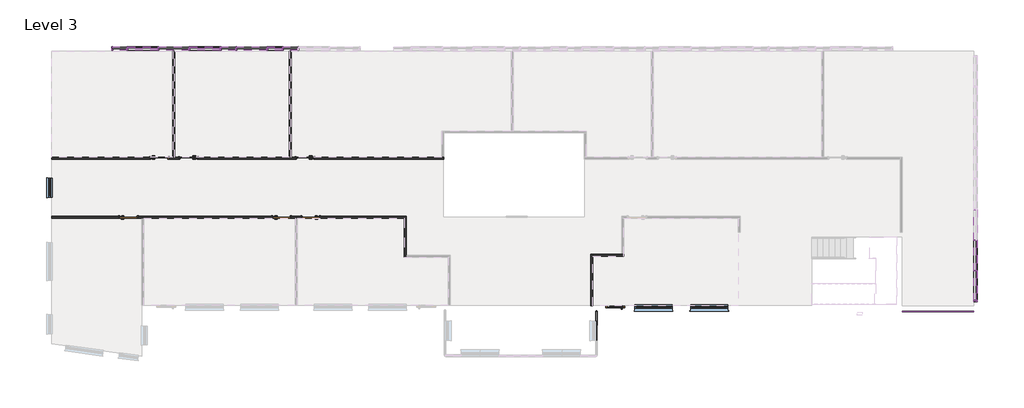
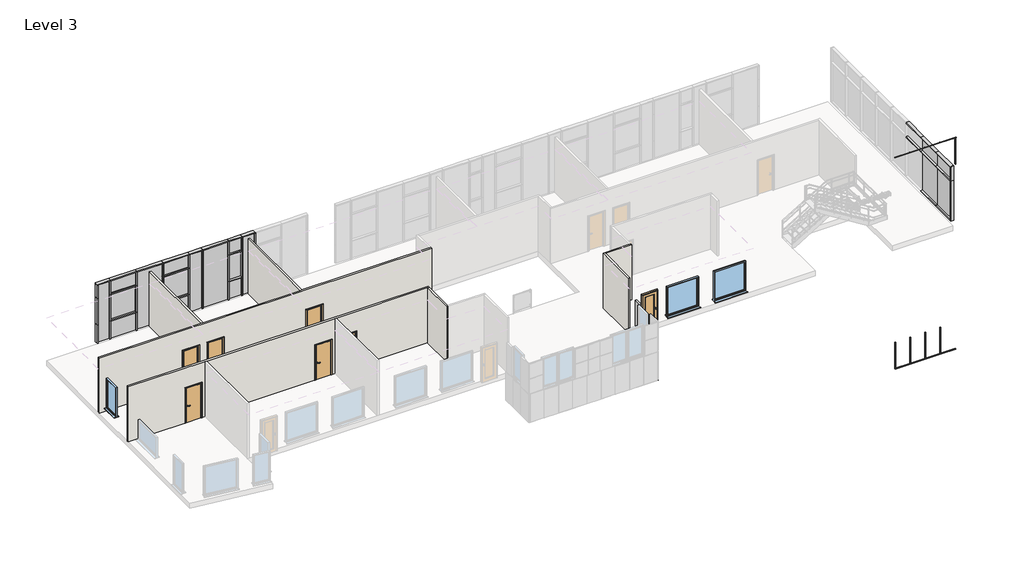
# One storey, part 2 of 7: 70 members, 20 plates, 7 doors, 7 walls, 3 windows.
"""IFC4 building model written with IfcOpenShell, lengths in millimetres."""

from ifc_helpers import new_model, si_unit, frame, origin, place, context, project, spatial, polyline, outline, extrude, faceted_brep, transform, mapped, element, save
from components import doors_extsgl_1_910x2110mm_7b8cb358, doors_intsgl_1_910x2110mm_004a08d5, doors_intsgl_1_910x2110mm_ba118736, rectangular_mullion_25x25mm_028a5a57, rectangular_mullion_25x25mm_786a5d36, rectangular_mullion_25x25mm_25fd254f, rectangular_mullion_25x25mm_12161fae, rectangular_mullion_25x25mm_ef6955a9, rectangular_mullion_25x25mm_25705b98, rectangular_mullion_25x25mm_b0a37639, rectangular_mullion_25x25mm_a2025cdc, rectangular_mullion_25x25mm_76bd89fd, rectangular_mullion_25x25mm_58970ee0, rectangular_mullion_50x180mm_27940352, rectangular_mullion_50x180mm_f781141c, rectangular_mullion_50x180mm_fd91253e, rectangular_mullion_50x180mm_cfc9efda, rectangular_mullion_50x180mm_c30fec06, rectangular_mullion_50x180mm_55b63a96, rectangular_mullion_50x180mm_7153291d, rectangular_mullion_50x180mm_95299f7d, rectangular_mullion_50x180mm_b21090a6, rectangular_mullion_50x180mm_bfae1b57, rectangular_mullion_50x180mm_1c28dd9e, rectangular_mullion_50x180mm_c0bd3b18, rectangular_mullion_50x180mm_ec7f3dde, rectangular_mullion_50x180mm_ee9895d7, rectangular_mullion_50x180mm_69a7fca8, rectangular_mullion_50x180mm_43fab6d0, rectangular_mullion_50x180mm_84521c55, rectangular_mullion_50x180mm_3562f263, curtain_panels_solid_solid_panel_green_bf3e8d7c, curtain_panels_solid_solid_panel_green_e58bbc27, system_panel_black_panel_33968e5e, system_panel_black_panel_b553a8d2, system_panel_dark_grey_panel_4b19a003, system_panel_glazed_dd63f223, system_panel_glazed_4915e1a0, system_panel_glazed_7f1c0332, system_panel_glazed_68cc8840, system_panel_glazed_324ac287, system_panel_glazed_350533b4, system_panel_white_panel_6a64f577, system_panel_white_panel_a9ca731a, system_panel_white_panel_dc489aa2, system_panel_white_panel_659cbcf8, windows_sgl_plain_1810x1810mm_c88d1166, windows_sgl_plain_910x1810mm_2ed797d2

model = new_model("IFC4")

# Units and contexts
model_context = context("Model", 3, world=origin())
ifc_project = project(units=[si_unit("LENGTHUNIT", "METRE", prefix="MILLI")], contexts=[model_context])

# Site, building, storey
site = spatial("IfcSite", under=ifc_project)
building = spatial("IfcBuilding", under=site)
storey = spatial("IfcBuildingStorey", under=building, Name="Level 3", Elevation=11000.0)

# Doors
placement = place(None, origin())
doors_extsgl_1_910x2110mm_shape = doors_extsgl_1_910x2110mm_7b8cb358(model_context)
element("IfcDoor", 1, ObjectType="Doors_ExtSgl_1 : 910x2110mm", at=placement, inside=storey, context=model_context, shape_type="MappedRepresentation", body=[
    mapped(doors_extsgl_1_910x2110mm_shape, transform((25785.7942367, -3410.0053409, 11000.0), x_axis=(-1.0, 0.0, 0.0), y_axis=(0.0, -1.0, 0.0), z_axis=(0.0, 0.0, 1.0))),
])
doors_intsgl_1_910x2110mm_shape = doors_intsgl_1_910x2110mm_004a08d5(model_context)
element("IfcDoor", 2, ObjectType="Doors_IntSgl_1 : 910x2110mm", at=placement, inside=storey, context=model_context, shape_type="MappedRepresentation", body=[
    mapped(doors_intsgl_1_910x2110mm_shape, transform((3778.2942367, 3837.3025486, 11000.0), x_axis=(1.0, 0.0, 0.0), y_axis=(0.0, 1.0, 0.0), z_axis=(0.0, 0.0, 1.0))),
])
element("IfcDoor", 3, ObjectType="Doors_IntSgl_1 : 910x2110mm", at=placement, inside=storey, context=model_context, shape_type="MappedRepresentation", body=[
    mapped(doors_intsgl_1_910x2110mm_shape, transform((11085.7942367, 987.4946591, 11000.0), x_axis=(-1.0, 0.0, 0.0), y_axis=(0.0, -1.0, 0.0), z_axis=(0.0, 0.0, 1.0))),
])
doors_intsgl_1_910x2110mm_2_shape = doors_intsgl_1_910x2110mm_ba118736(model_context)
element("IfcDoor", 4, ObjectType="Doors_IntSgl_1 : 910x2110mm", at=placement, inside=storey, context=model_context, shape_type="MappedRepresentation", body=[
    mapped(doors_intsgl_1_910x2110mm_2_shape, transform((5183.2942367, 3837.3025486, 11000.0), x_axis=(-1.0, 0.0, 0.0), y_axis=(0.0, -1.0, 0.0), z_axis=(0.0, 0.0, 1.0))),
])
element("IfcDoor", 5, ObjectType="Doors_IntSgl_1 : 910x2110mm", at=placement, inside=storey, context=model_context, shape_type="MappedRepresentation", body=[
    mapped(doors_intsgl_1_910x2110mm_2_shape, transform((10808.2942367, 3837.3025486, 11000.0), x_axis=(-1.0, 0.0, 0.0), y_axis=(0.0, -1.0, 0.0), z_axis=(0.0, 0.0, 1.0))),
])
element("IfcDoor", 6, ObjectType="Doors_IntSgl_1 : 910x2110mm", at=placement, inside=storey, context=model_context, shape_type="MappedRepresentation", body=[
    mapped(doors_intsgl_1_910x2110mm_2_shape, transform((9680.7942367, 987.4946591, 11000.0), x_axis=(1.0, 0.0, 0.0), y_axis=(0.0, 1.0, 0.0), z_axis=(0.0, 0.0, 1.0))),
])
element("IfcDoor", 7, ObjectType="Doors_IntSgl_1 : 910x2110mm", at=placement, inside=storey, context=model_context, shape_type="MappedRepresentation", body=[
    mapped(doors_intsgl_1_910x2110mm_2_shape, transform((2280.7942367, 987.4946591, 11000.0), x_axis=(1.0, 0.0, 0.0), y_axis=(0.0, 1.0, 0.0), z_axis=(0.0, 0.0, 1.0))),
])

# Members
rectangular_mullion_25x25mm_shape = rectangular_mullion_25x25mm_028a5a57(model_context)
element("IfcMember", 8, ObjectType="Rectangular Mullion : 25x25mm", at=placement, inside=storey, context=model_context, shape_type="MappedRepresentation", body=[
    mapped(rectangular_mullion_25x25mm_shape, transform((24873.2942367, -3535.0053409, 11275.0), x_axis=(0.0, 1.0, 0.0), y_axis=(-1.0, 0.0, 0.0), z_axis=(0.0, 0.0, 1.0))),
])
rectangular_mullion_25x25mm_2_shape = rectangular_mullion_25x25mm_786a5d36(model_context)
element("IfcMember", 9, ObjectType="Rectangular Mullion : 25x25mm", at=placement, inside=storey, context=model_context, shape_type="MappedRepresentation", body=[
    mapped(rectangular_mullion_25x25mm_2_shape, transform((24873.2942367, -4250.005341, 11300.0), x_axis=(0.0, 0.0, 1.0), y_axis=(-1.0, 0.0, 0.0), z_axis=(0.0, -1.0, 0.0))),
])
rectangular_mullion_25x25mm_3_shape = rectangular_mullion_25x25mm_25fd254f(model_context)
element("IfcMember", 10, ObjectType="Rectangular Mullion : 25x25mm", at=placement, inside=storey, context=model_context, shape_type="MappedRepresentation", body=[
    mapped(rectangular_mullion_25x25mm_3_shape, transform((24873.2942367, -4977.5053408, 11300.0), x_axis=(0.0, 0.0, 1.0), y_axis=(-1.0, 0.0, 0.0), z_axis=(0.0, -1.0, 0.0))),
])
element("IfcMember", 11, ObjectType="Rectangular Mullion : 25x25mm", at=placement, inside=storey, context=model_context, shape_type="MappedRepresentation", body=[
    mapped(rectangular_mullion_25x25mm_2_shape, transform((24873.2942367, -3535.0053409, 9560.0), x_axis=(0.0, 0.0, -1.0), y_axis=(-1.0, 0.0, 0.0), z_axis=(0.0, 1.0, 0.0))),
])
element("IfcMember", 12, ObjectType="Rectangular Mullion : 25x25mm", at=placement, inside=storey, context=model_context, shape_type="MappedRepresentation", body=[
    mapped(rectangular_mullion_25x25mm_3_shape, transform((24873.2942367, -4250.005341, 9560.0), x_axis=(0.0, 0.0, -1.0), y_axis=(-1.0, 0.0, 0.0), z_axis=(0.0, 1.0, 0.0))),
])
rectangular_mullion_25x25mm_4_shape = rectangular_mullion_25x25mm_12161fae(model_context)
element("IfcMember", 13, ObjectType="Rectangular Mullion : 25x25mm", at=placement, inside=storey, context=model_context, shape_type="MappedRepresentation", body=[
    mapped(rectangular_mullion_25x25mm_4_shape, transform((24873.2942367, -4977.5053408, 9560.0), x_axis=(0.0, 0.0, -1.0), y_axis=(-1.0, 0.0, 0.0), z_axis=(0.0, 1.0, 0.0))),
])
rectangular_mullion_25x25mm_5_shape = rectangular_mullion_25x25mm_ef6955a9(model_context)
element("IfcMember", 14, ObjectType="Rectangular Mullion : 25x25mm", at=placement, inside=storey, context=model_context, shape_type="MappedRepresentation", body=[
    mapped(rectangular_mullion_25x25mm_5_shape, transform((41374.7942367, -3560.0053409, 16500.0), x_axis=(0.0, 0.0, 1.0), y_axis=(0.0, 1.0, 0.0), z_axis=(-1.0, 0.0, 0.0))),
])
element("IfcMember", 15, ObjectType="Rectangular Mullion : 25x25mm", at=placement, inside=storey, context=model_context, shape_type="MappedRepresentation", body=[
    mapped(rectangular_mullion_25x25mm_5_shape, transform((40521.5442368, -3560.0053409, 16500.0), x_axis=(0.0, 0.0, 1.0), y_axis=(0.0, 1.0, 0.0), z_axis=(-1.0, 0.0, 0.0))),
])
rectangular_mullion_25x25mm_6_shape = rectangular_mullion_25x25mm_25705b98(model_context)
element("IfcMember", 16, ObjectType="Rectangular Mullion : 25x25mm", at=placement, inside=storey, context=model_context, shape_type="MappedRepresentation", body=[
    mapped(rectangular_mullion_25x25mm_6_shape, transform((43093.7942367, -3560.0053409, 3750.0), x_axis=(0.0, 0.0, -1.0), y_axis=(0.0, 1.0, 0.0), z_axis=(1.0, 0.0, 0.0))),
])
element("IfcMember", 17, ObjectType="Rectangular Mullion : 25x25mm", at=placement, inside=storey, context=model_context, shape_type="MappedRepresentation", body=[
    mapped(rectangular_mullion_25x25mm_5_shape, transform((42228.0442365, -3560.0053409, 3750.0), x_axis=(0.0, 0.0, -1.0), y_axis=(0.0, 1.0, 0.0), z_axis=(1.0, 0.0, 0.0))),
])
element("IfcMember", 18, ObjectType="Rectangular Mullion : 25x25mm", at=placement, inside=storey, context=model_context, shape_type="MappedRepresentation", body=[
    mapped(rectangular_mullion_25x25mm_5_shape, transform((41374.7942367, -3560.0053409, 3750.0), x_axis=(0.0, 0.0, -1.0), y_axis=(0.0, 1.0, 0.0), z_axis=(1.0, 0.0, 0.0))),
])
element("IfcMember", 19, ObjectType="Rectangular Mullion : 25x25mm", at=placement, inside=storey, context=model_context, shape_type="MappedRepresentation", body=[
    mapped(rectangular_mullion_25x25mm_6_shape, transform((40521.5442368, -3560.0053409, 3750.0), x_axis=(0.0, 0.0, -1.0), y_axis=(0.0, 1.0, 0.0), z_axis=(1.0, 0.0, 0.0))),
])
rectangular_mullion_25x25mm_7_shape = rectangular_mullion_25x25mm_b0a37639(model_context)
element("IfcMember", 20, ObjectType="Rectangular Mullion : 25x25mm", at=placement, inside=storey, context=model_context, shape_type="MappedRepresentation", body=[
    mapped(rectangular_mullion_25x25mm_7_shape, transform((42228.0442365, -3560.0053409, 3775.0), x_axis=(-1.0, 0.0, 0.0), y_axis=(0.0, 1.0, 0.0), z_axis=(0.0, 0.0, -1.0))),
])
element("IfcMember", 21, ObjectType="Rectangular Mullion : 25x25mm", at=placement, inside=storey, context=model_context, shape_type="MappedRepresentation", body=[
    mapped(rectangular_mullion_25x25mm_7_shape, transform((41374.7942367, -3560.0053409, 3775.0), x_axis=(-1.0, 0.0, 0.0), y_axis=(0.0, 1.0, 0.0), z_axis=(0.0, 0.0, -1.0))),
])
element("IfcMember", 22, ObjectType="Rectangular Mullion : 25x25mm", at=placement, inside=storey, context=model_context, shape_type="MappedRepresentation", body=[
    mapped(rectangular_mullion_25x25mm_7_shape, transform((40521.5442368, -3560.0053409, 3775.0), x_axis=(-1.0, 0.0, 0.0), y_axis=(0.0, 1.0, 0.0), z_axis=(0.0, 0.0, -1.0))),
])
rectangular_mullion_25x25mm_8_shape = rectangular_mullion_25x25mm_a2025cdc(model_context)
element("IfcMember", 23, ObjectType="Rectangular Mullion : 25x25mm", at=placement, inside=storey, context=model_context, shape_type="MappedRepresentation", body=[
    mapped(rectangular_mullion_25x25mm_8_shape, transform((39655.7942367, -3560.0053409, 3775.0), x_axis=(-1.0, 0.0, 0.0), y_axis=(0.0, 1.0, 0.0), z_axis=(0.0, 0.0, -1.0))),
])
element("IfcMember", 24, ObjectType="Rectangular Mullion : 25x25mm", at=placement, inside=storey, context=model_context, shape_type="MappedRepresentation", body=[
    mapped(rectangular_mullion_25x25mm_8_shape, transform((43093.7942367, -3560.0053409, 16475.0), x_axis=(1.0, 0.0, 0.0), y_axis=(0.0, 1.0, 0.0), z_axis=(0.0, 0.0, 1.0))),
])
rectangular_mullion_25x25mm_9_shape = rectangular_mullion_25x25mm_76bd89fd(model_context)
element("IfcMember", 25, ObjectType="Rectangular Mullion : 25x25mm", at=placement, inside=storey, context=model_context, shape_type="MappedRepresentation", body=[
    mapped(rectangular_mullion_25x25mm_9_shape, transform((42228.0442365, -3560.0053409, 16500.0), x_axis=(0.0, 0.0, 1.0), y_axis=(0.0, 1.0, 0.0), z_axis=(-1.0, 0.0, 0.0))),
])
rectangular_mullion_25x25mm_10_shape = rectangular_mullion_25x25mm_58970ee0(model_context)
element("IfcMember", 26, ObjectType="Rectangular Mullion : 25x25mm", at=placement, inside=storey, context=model_context, shape_type="MappedRepresentation", body=[
    mapped(rectangular_mullion_25x25mm_10_shape, transform((39655.7942367, -3560.0053409, 16500.0), x_axis=(0.0, 0.0, 1.0), y_axis=(0.0, 1.0, 0.0), z_axis=(-1.0, 0.0, 0.0))),
])
rectangular_mullion_50x180mm_shape = rectangular_mullion_50x180mm_27940352(model_context)
element("IfcMember", 27, ObjectType="Rectangular Mullion : 50x180mm", at=placement, inside=storey, context=model_context, shape_type="MappedRepresentation", body=[
    mapped(rectangular_mullion_50x180mm_shape, transform((10480.7942367, 9132.4946591, 11000.0), x_axis=(1.0, 0.0, 0.0), y_axis=(0.0, -1.0, 0.0), z_axis=(0.0, 0.0, -1.0))),
])
element("IfcMember", 28, ObjectType="Rectangular Mullion : 50x180mm", at=placement, inside=storey, context=model_context, shape_type="MappedRepresentation", body=[
    mapped(rectangular_mullion_50x180mm_shape, transform((9730.7942367, 9132.4946591, 11000.0), x_axis=(1.0, 0.0, 0.0), y_axis=(0.0, -1.0, 0.0), z_axis=(0.0, 0.0, -1.0))),
])
element("IfcMember", 29, ObjectType="Rectangular Mullion : 50x180mm", at=placement, inside=storey, context=model_context, shape_type="MappedRepresentation", body=[
    mapped(rectangular_mullion_50x180mm_shape, transform((8980.7942367, 9132.4946591, 11000.0), x_axis=(1.0, 0.0, 0.0), y_axis=(0.0, -1.0, 0.0), z_axis=(0.0, 0.0, -1.0))),
])
element("IfcMember", 30, ObjectType="Rectangular Mullion : 50x180mm", at=placement, inside=storey, context=model_context, shape_type="MappedRepresentation", body=[
    mapped(rectangular_mullion_50x180mm_shape, transform((6730.7942367, 9132.4946591, 11000.0), x_axis=(1.0, 0.0, 0.0), y_axis=(0.0, -1.0, 0.0), z_axis=(0.0, 0.0, -1.0))),
])
element("IfcMember", 31, ObjectType="Rectangular Mullion : 50x180mm", at=placement, inside=storey, context=model_context, shape_type="MappedRepresentation", body=[
    mapped(rectangular_mullion_50x180mm_shape, transform((5230.7942367, 9132.4946591, 11000.0), x_axis=(1.0, 0.0, 0.0), y_axis=(0.0, -1.0, 0.0), z_axis=(0.0, 0.0, -1.0))),
])
element("IfcMember", 32, ObjectType="Rectangular Mullion : 50x180mm", at=placement, inside=storey, context=model_context, shape_type="MappedRepresentation", body=[
    mapped(rectangular_mullion_50x180mm_shape, transform((2230.7942367, 9132.4946591, 11000.0), x_axis=(1.0, 0.0, 0.0), y_axis=(0.0, -1.0, 0.0), z_axis=(0.0, 0.0, -1.0))),
])
element("IfcMember", 33, ObjectType="Rectangular Mullion : 50x180mm", at=placement, inside=storey, context=model_context, shape_type="MappedRepresentation", body=[
    mapped(rectangular_mullion_50x180mm_shape, transform((3730.7942367, 9132.4946591, 11000.0), x_axis=(1.0, 0.0, 0.0), y_axis=(0.0, -1.0, 0.0), z_axis=(0.0, 0.0, -1.0))),
])
element("IfcMember", 34, ObjectType="Rectangular Mullion : 50x180mm", at=placement, inside=storey, context=model_context, shape_type="MappedRepresentation", body=[
    mapped(rectangular_mullion_50x180mm_shape, transform((7480.7942367, 9132.4946591, 11000.0), x_axis=(1.0, 0.0, 0.0), y_axis=(0.0, -1.0, 0.0), z_axis=(0.0, 0.0, -1.0))),
])
rectangular_mullion_50x180mm_2_shape = rectangular_mullion_50x180mm_f781141c(model_context)
element("IfcMember", 35, ObjectType="Rectangular Mullion : 50x180mm", at=placement, inside=storey, context=model_context, shape_type="MappedRepresentation", body=[
    mapped(rectangular_mullion_50x180mm_2_shape, transform((2230.7942367, 9132.4946591, 12100.0), x_axis=(1.0, 0.0, 0.0), y_axis=(0.0, -1.0, 0.0), z_axis=(0.0, 0.0, -1.0))),
])
element("IfcMember", 36, ObjectType="Rectangular Mullion : 50x180mm", at=placement, inside=storey, context=model_context, shape_type="MappedRepresentation", body=[
    mapped(rectangular_mullion_50x180mm_2_shape, transform((3730.7942367, 9132.4946591, 12100.0), x_axis=(1.0, 0.0, 0.0), y_axis=(0.0, -1.0, 0.0), z_axis=(0.0, 0.0, -1.0))),
])
element("IfcMember", 37, ObjectType="Rectangular Mullion : 50x180mm", at=placement, inside=storey, context=model_context, shape_type="MappedRepresentation", body=[
    mapped(rectangular_mullion_50x180mm_2_shape, transform((5230.7942367, 9132.4946591, 12100.0), x_axis=(1.0, 0.0, 0.0), y_axis=(0.0, -1.0, 0.0), z_axis=(0.0, 0.0, -1.0))),
])
element("IfcMember", 38, ObjectType="Rectangular Mullion : 50x180mm", at=placement, inside=storey, context=model_context, shape_type="MappedRepresentation", body=[
    mapped(rectangular_mullion_50x180mm_2_shape, transform((6730.7942367, 9132.4946591, 12100.0), x_axis=(1.0, 0.0, 0.0), y_axis=(0.0, -1.0, 0.0), z_axis=(0.0, 0.0, -1.0))),
])
element("IfcMember", 39, ObjectType="Rectangular Mullion : 50x180mm", at=placement, inside=storey, context=model_context, shape_type="MappedRepresentation", body=[
    mapped(rectangular_mullion_50x180mm_2_shape, transform((8980.7942367, 9132.4946591, 12100.0), x_axis=(1.0, 0.0, 0.0), y_axis=(0.0, -1.0, 0.0), z_axis=(0.0, 0.0, -1.0))),
])
element("IfcMember", 40, ObjectType="Rectangular Mullion : 50x180mm", at=placement, inside=storey, context=model_context, shape_type="MappedRepresentation", body=[
    mapped(rectangular_mullion_50x180mm_2_shape, transform((9730.7942367, 9132.4946591, 12100.0), x_axis=(1.0, 0.0, 0.0), y_axis=(0.0, -1.0, 0.0), z_axis=(0.0, 0.0, -1.0))),
])
element("IfcMember", 41, ObjectType="Rectangular Mullion : 50x180mm", at=placement, inside=storey, context=model_context, shape_type="MappedRepresentation", body=[
    mapped(rectangular_mullion_50x180mm_2_shape, transform((10480.7942367, 9132.4946591, 12100.0), x_axis=(1.0, 0.0, 0.0), y_axis=(0.0, -1.0, 0.0), z_axis=(0.0, 0.0, -1.0))),
])
element("IfcMember", 42, ObjectType="Rectangular Mullion : 50x180mm", at=placement, inside=storey, context=model_context, shape_type="MappedRepresentation", body=[
    mapped(rectangular_mullion_50x180mm_2_shape, transform((7480.7942367, 9132.4946591, 12100.0), x_axis=(1.0, 0.0, 0.0), y_axis=(0.0, -1.0, 0.0), z_axis=(0.0, 0.0, -1.0))),
])
rectangular_mullion_50x180mm_3_shape = rectangular_mullion_50x180mm_fd91253e(model_context)
element("IfcMember", 43, ObjectType="Rectangular Mullion : 50x180mm", at=placement, inside=storey, context=model_context, shape_type="MappedRepresentation", body=[
    mapped(rectangular_mullion_50x180mm_3_shape, transform((3705.7942367, 9132.4946591, 12100.0), x_axis=(0.0, 0.0, 1.0), y_axis=(0.0, -1.0, 0.0), z_axis=(1.0, 0.0, 0.0))),
])
element("IfcMember", 44, ObjectType="Rectangular Mullion : 50x180mm", at=placement, inside=storey, context=model_context, shape_type="MappedRepresentation", body=[
    mapped(rectangular_mullion_50x180mm_3_shape, transform((6705.7942367, 9132.4946591, 12100.0), x_axis=(0.0, 0.0, 1.0), y_axis=(0.0, -1.0, 0.0), z_axis=(1.0, 0.0, 0.0))),
])
element("IfcMember", 45, ObjectType="Rectangular Mullion : 50x180mm", at=placement, inside=storey, context=model_context, shape_type="MappedRepresentation", body=[
    mapped(rectangular_mullion_50x180mm_3_shape, transform((3705.7942367, 9132.4946591, 13700.0), x_axis=(0.0, 0.0, 1.0), y_axis=(0.0, -1.0, 0.0), z_axis=(1.0, 0.0, 0.0))),
])
element("IfcMember", 46, ObjectType="Rectangular Mullion : 50x180mm", at=placement, inside=storey, context=model_context, shape_type="MappedRepresentation", body=[
    mapped(rectangular_mullion_50x180mm_3_shape, transform((6705.7942367, 9132.4946591, 13700.0), x_axis=(0.0, 0.0, 1.0), y_axis=(0.0, -1.0, 0.0), z_axis=(1.0, 0.0, 0.0))),
])
rectangular_mullion_50x180mm_4_shape = rectangular_mullion_50x180mm_cfc9efda(model_context)
element("IfcMember", 47, ObjectType="Rectangular Mullion : 50x180mm", at=placement, inside=storey, context=model_context, shape_type="MappedRepresentation", body=[
    mapped(rectangular_mullion_50x180mm_4_shape, transform((9705.7942367, 9132.4946591, 13700.0), x_axis=(0.0, 0.0, 1.0), y_axis=(0.0, -1.0, 0.0), z_axis=(1.0, 0.0, 0.0))),
])
element("IfcMember", 48, ObjectType="Rectangular Mullion : 50x180mm", at=placement, inside=storey, context=model_context, shape_type="MappedRepresentation", body=[
    mapped(rectangular_mullion_50x180mm_4_shape, transform((9705.7942367, 9132.4946591, 12100.0), x_axis=(0.0, 0.0, 1.0), y_axis=(0.0, -1.0, 0.0), z_axis=(1.0, 0.0, 0.0))),
])
rectangular_mullion_50x180mm_5_shape = rectangular_mullion_50x180mm_c30fec06(model_context)
element("IfcMember", 49, ObjectType="Rectangular Mullion : 50x180mm", at=placement, inside=storey, context=model_context, shape_type="MappedRepresentation", body=[
    mapped(rectangular_mullion_50x180mm_5_shape, transform((3730.7942367, 9132.4946591, 14550.0), x_axis=(0.0, 0.0, 1.0), y_axis=(0.0, -1.0, 0.0), z_axis=(1.0, 0.0, 0.0))),
])
element("IfcMember", 50, ObjectType="Rectangular Mullion : 50x180mm", at=placement, inside=storey, context=model_context, shape_type="MappedRepresentation", body=[
    mapped(rectangular_mullion_50x180mm_5_shape, transform((5230.7942367, 9132.4946591, 14550.0), x_axis=(0.0, 0.0, 1.0), y_axis=(0.0, -1.0, 0.0), z_axis=(1.0, 0.0, 0.0))),
])
element("IfcMember", 51, ObjectType="Rectangular Mullion : 50x180mm", at=placement, inside=storey, context=model_context, shape_type="MappedRepresentation", body=[
    mapped(rectangular_mullion_50x180mm_5_shape, transform((6730.7942367, 9132.4946591, 14550.0), x_axis=(0.0, 0.0, 1.0), y_axis=(0.0, -1.0, 0.0), z_axis=(1.0, 0.0, 0.0))),
])
element("IfcMember", 52, ObjectType="Rectangular Mullion : 50x180mm", at=placement, inside=storey, context=model_context, shape_type="MappedRepresentation", body=[
    mapped(rectangular_mullion_50x180mm_5_shape, transform((8980.7942367, 9132.4946591, 14550.0), x_axis=(0.0, 0.0, 1.0), y_axis=(0.0, -1.0, 0.0), z_axis=(1.0, 0.0, 0.0))),
])
rectangular_mullion_50x180mm_6_shape = rectangular_mullion_50x180mm_55b63a96(model_context)
element("IfcMember", 53, ObjectType="Rectangular Mullion : 50x180mm", at=placement, inside=storey, context=model_context, shape_type="MappedRepresentation", body=[
    mapped(rectangular_mullion_50x180mm_6_shape, transform((7480.7942367, 9132.4946591, 14550.0), x_axis=(0.0, 0.0, 1.0), y_axis=(0.0, -1.0, 0.0), z_axis=(1.0, 0.0, 0.0))),
])
element("IfcMember", 54, ObjectType="Rectangular Mullion : 50x180mm", at=placement, inside=storey, context=model_context, shape_type="MappedRepresentation", body=[
    mapped(rectangular_mullion_50x180mm_6_shape, transform((9730.7942367, 9132.4946591, 14550.0), x_axis=(0.0, 0.0, 1.0), y_axis=(0.0, -1.0, 0.0), z_axis=(1.0, 0.0, 0.0))),
])
element("IfcMember", 55, ObjectType="Rectangular Mullion : 50x180mm", at=placement, inside=storey, context=model_context, shape_type="MappedRepresentation", body=[
    mapped(rectangular_mullion_50x180mm_6_shape, transform((10480.7942367, 9132.4946591, 14550.0), x_axis=(0.0, 0.0, 1.0), y_axis=(0.0, -1.0, 0.0), z_axis=(1.0, 0.0, 0.0))),
])
rectangular_mullion_50x180mm_7_shape = rectangular_mullion_50x180mm_7153291d(model_context)
element("IfcMember", 56, ObjectType="Rectangular Mullion : 50x180mm", at=placement, inside=storey, context=model_context, shape_type="MappedRepresentation", body=[
    mapped(rectangular_mullion_50x180mm_7_shape, transform((1480.7942367, 9132.4946591, 12100.0), x_axis=(-1.0, 0.0, 0.0), y_axis=(0.0, -1.0, 0.0), z_axis=(0.0, 0.0, 1.0))),
])
rectangular_mullion_50x180mm_8_shape = rectangular_mullion_50x180mm_95299f7d(model_context)
element("IfcMember", 57, ObjectType="Rectangular Mullion : 50x180mm", at=placement, inside=storey, context=model_context, shape_type="MappedRepresentation", body=[
    mapped(rectangular_mullion_50x180mm_8_shape, transform((1480.7942367, 9132.4946591, 13700.0), x_axis=(-1.0, 0.0, 0.0), y_axis=(0.0, -1.0, 0.0), z_axis=(0.0, 0.0, 1.0))),
])
element("IfcMember", 58, ObjectType="Rectangular Mullion : 50x180mm", at=placement, inside=storey, context=model_context, shape_type="MappedRepresentation", body=[
    mapped(rectangular_mullion_50x180mm_6_shape, transform((2230.7942367, 9132.4946591, 14550.0), x_axis=(0.0, 0.0, 1.0), y_axis=(0.0, -1.0, 0.0), z_axis=(1.0, 0.0, 0.0))),
])
rectangular_mullion_50x180mm_9_shape = rectangular_mullion_50x180mm_b21090a6(model_context)
element("IfcMember", 59, ObjectType="Rectangular Mullion : 50x180mm", at=placement, inside=storey, context=model_context, shape_type="MappedRepresentation", body=[
    mapped(rectangular_mullion_50x180mm_9_shape, transform((43193.2942367, -3090.0053409, 11150.0), x_axis=(0.0, -1.0, 0.0), y_axis=(-1.0, 0.0, 0.0), z_axis=(0.0, 0.0, -1.0))),
])
rectangular_mullion_50x180mm_10_shape = rectangular_mullion_50x180mm_bfae1b57(model_context)
element("IfcMember", 60, ObjectType="Rectangular Mullion : 50x180mm", at=placement, inside=storey, context=model_context, shape_type="MappedRepresentation", body=[
    mapped(rectangular_mullion_50x180mm_10_shape, transform((8980.7942367, 9132.4946591, 13700.0), x_axis=(1.0, 0.0, 0.0), y_axis=(0.0, -1.0, 0.0), z_axis=(0.0, 0.0, -1.0))),
])
element("IfcMember", 61, ObjectType="Rectangular Mullion : 50x180mm", at=placement, inside=storey, context=model_context, shape_type="MappedRepresentation", body=[
    mapped(rectangular_mullion_50x180mm_10_shape, transform((9730.7942367, 9132.4946591, 13700.0), x_axis=(1.0, 0.0, 0.0), y_axis=(0.0, -1.0, 0.0), z_axis=(0.0, 0.0, -1.0))),
])
element("IfcMember", 62, ObjectType="Rectangular Mullion : 50x180mm", at=placement, inside=storey, context=model_context, shape_type="MappedRepresentation", body=[
    mapped(rectangular_mullion_50x180mm_10_shape, transform((10480.7942367, 9132.4946591, 13700.0), x_axis=(1.0, 0.0, 0.0), y_axis=(0.0, -1.0, 0.0), z_axis=(0.0, 0.0, -1.0))),
])
element("IfcMember", 63, ObjectType="Rectangular Mullion : 50x180mm", at=placement, inside=storey, context=model_context, shape_type="MappedRepresentation", body=[
    mapped(rectangular_mullion_50x180mm_10_shape, transform((6730.7942367, 9132.4946591, 13700.0), x_axis=(1.0, 0.0, 0.0), y_axis=(0.0, -1.0, 0.0), z_axis=(0.0, 0.0, -1.0))),
])
element("IfcMember", 64, ObjectType="Rectangular Mullion : 50x180mm", at=placement, inside=storey, context=model_context, shape_type="MappedRepresentation", body=[
    mapped(rectangular_mullion_50x180mm_10_shape, transform((5230.7942367, 9132.4946591, 13700.0), x_axis=(1.0, 0.0, 0.0), y_axis=(0.0, -1.0, 0.0), z_axis=(0.0, 0.0, -1.0))),
])
element("IfcMember", 65, ObjectType="Rectangular Mullion : 50x180mm", at=placement, inside=storey, context=model_context, shape_type="MappedRepresentation", body=[
    mapped(rectangular_mullion_50x180mm_10_shape, transform((2230.7942367, 9132.4946591, 13700.0), x_axis=(1.0, 0.0, 0.0), y_axis=(0.0, -1.0, 0.0), z_axis=(0.0, 0.0, -1.0))),
])
element("IfcMember", 66, ObjectType="Rectangular Mullion : 50x180mm", at=placement, inside=storey, context=model_context, shape_type="MappedRepresentation", body=[
    mapped(rectangular_mullion_50x180mm_10_shape, transform((3730.7942367, 9132.4946591, 13700.0), x_axis=(1.0, 0.0, 0.0), y_axis=(0.0, -1.0, 0.0), z_axis=(0.0, 0.0, -1.0))),
])
element("IfcMember", 67, ObjectType="Rectangular Mullion : 50x180mm", at=placement, inside=storey, context=model_context, shape_type="MappedRepresentation", body=[
    mapped(rectangular_mullion_50x180mm_10_shape, transform((7480.7942367, 9132.4946591, 13700.0), x_axis=(1.0, 0.0, 0.0), y_axis=(0.0, -1.0, 0.0), z_axis=(0.0, 0.0, -1.0))),
])
rectangular_mullion_50x180mm_11_shape = rectangular_mullion_50x180mm_1c28dd9e(model_context)
element("IfcMember", 68, ObjectType="Rectangular Mullion : 50x180mm", at=placement, inside=storey, context=model_context, shape_type="MappedRepresentation", body=[
    mapped(rectangular_mullion_50x180mm_11_shape, transform((1480.7942367, 9132.4946591, 14500.0), x_axis=(-1.0, 0.0, 0.0), y_axis=(0.0, -1.0, 0.0), z_axis=(0.0, 0.0, 1.0))),
])
rectangular_mullion_50x180mm_12_shape = rectangular_mullion_50x180mm_c0bd3b18(model_context)
element("IfcMember", 69, ObjectType="Rectangular Mullion : 50x180mm", at=placement, inside=storey, context=model_context, shape_type="MappedRepresentation", body=[
    mapped(rectangular_mullion_50x180mm_12_shape, transform((43193.2942367, -3040.0053409, 14415.0), x_axis=(0.0, 0.0, 1.0), y_axis=(-1.0, 0.0, 0.0), z_axis=(0.0, -1.0, 0.0))),
])
rectangular_mullion_50x180mm_13_shape = rectangular_mullion_50x180mm_ec7f3dde(model_context)
element("IfcMember", 70, ObjectType="Rectangular Mullion : 50x180mm", at=placement, inside=storey, context=model_context, shape_type="MappedRepresentation", body=[
    mapped(rectangular_mullion_50x180mm_13_shape, transform((43193.2942367, -124.3803407, 13550.0), x_axis=(0.0, 0.0, 1.0), y_axis=(-1.0, 0.0, 0.0), z_axis=(0.0, -1.0, 0.0))),
])
rectangular_mullion_50x180mm_14_shape = rectangular_mullion_50x180mm_ee9895d7(model_context)
element("IfcMember", 71, ObjectType="Rectangular Mullion : 50x180mm", at=placement, inside=storey, context=model_context, shape_type="MappedRepresentation", body=[
    mapped(rectangular_mullion_50x180mm_14_shape, transform((43193.2942367, -124.3803407, 14415.0), x_axis=(0.0, 0.0, 1.0), y_axis=(-1.0, 0.0, 0.0), z_axis=(0.0, -1.0, 0.0))),
])
rectangular_mullion_50x180mm_15_shape = rectangular_mullion_50x180mm_69a7fca8(model_context)
element("IfcMember", 72, ObjectType="Rectangular Mullion : 50x180mm", at=placement, inside=storey, context=model_context, shape_type="MappedRepresentation", body=[
    mapped(rectangular_mullion_50x180mm_15_shape, transform((43193.2942367, -1607.1928406, 14415.0), x_axis=(0.0, 0.0, 1.0), y_axis=(-1.0, 0.0, 0.0), z_axis=(0.0, -1.0, 0.0))),
])
element("IfcMember", 73, ObjectType="Rectangular Mullion : 50x180mm", at=placement, inside=storey, context=model_context, shape_type="MappedRepresentation", body=[
    mapped(rectangular_mullion_50x180mm_15_shape, transform((43193.2942367, -124.3803407, 11150.0), x_axis=(0.0, 0.0, -1.0), y_axis=(-1.0, 0.0, 0.0), z_axis=(0.0, 1.0, 0.0))),
])
element("IfcMember", 74, ObjectType="Rectangular Mullion : 50x180mm", at=placement, inside=storey, context=model_context, shape_type="MappedRepresentation", body=[
    mapped(rectangular_mullion_50x180mm_12_shape, transform((43193.2942367, -1607.1928406, 11150.0), x_axis=(0.0, 0.0, -1.0), y_axis=(-1.0, 0.0, 0.0), z_axis=(0.0, 1.0, 0.0))),
])
rectangular_mullion_50x180mm_16_shape = rectangular_mullion_50x180mm_43fab6d0(model_context)
element("IfcMember", 75, ObjectType="Rectangular Mullion : 50x180mm", at=placement, inside=storey, context=model_context, shape_type="MappedRepresentation", body=[
    mapped(rectangular_mullion_50x180mm_16_shape, transform((43193.2942367, -1607.1928406, 13550.0), x_axis=(0.0, 0.0, 1.0), y_axis=(-1.0, 0.0, 0.0), z_axis=(0.0, -1.0, 0.0))),
])
rectangular_mullion_50x180mm_17_shape = rectangular_mullion_50x180mm_84521c55(model_context)
element("IfcMember", 76, ObjectType="Rectangular Mullion : 50x180mm", at=placement, inside=storey, context=model_context, shape_type="MappedRepresentation", body=[
    mapped(rectangular_mullion_50x180mm_17_shape, transform((43193.2942367, -3040.0053409, 13550.0), x_axis=(0.0, 0.0, 1.0), y_axis=(-1.0, 0.0, 0.0), z_axis=(0.0, -1.0, 0.0))),
])
rectangular_mullion_50x180mm_18_shape = rectangular_mullion_50x180mm_3562f263(model_context)
element("IfcMember", 77, ObjectType="Rectangular Mullion : 50x180mm", at=placement, inside=storey, context=model_context, shape_type="MappedRepresentation", body=[
    mapped(rectangular_mullion_50x180mm_18_shape, transform((43193.2942367, -3090.0053409, 13550.0), x_axis=(0.0, -1.0, 0.0), y_axis=(-1.0, 0.0, 0.0), z_axis=(0.0, 0.0, -1.0))),
])

# Plates
curtain_panels_solid_solid_panel_green_shape = curtain_panels_solid_solid_panel_green_bf3e8d7c(model_context)
element("IfcPlate", 78, ObjectType="Curtain_Panels_Solid : Solid_Panel_Green", at=placement, inside=storey, context=model_context, shape_type="MappedRepresentation", body=[
    mapped(curtain_panels_solid_solid_panel_green_shape, transform((24873.2942367, -3898.7553409, 9585.0), x_axis=(0.0, -1.0, 0.0), y_axis=(1.0, 0.0, 0.0), z_axis=(0.0, 0.0, 1.0))),
])
curtain_panels_solid_solid_panel_green_2_shape = curtain_panels_solid_solid_panel_green_e58bbc27(model_context)
element("IfcPlate", 79, ObjectType="Curtain_Panels_Solid : Solid_Panel_Green", at=placement, inside=storey, context=model_context, shape_type="MappedRepresentation", body=[
    mapped(curtain_panels_solid_solid_panel_green_2_shape, transform((24873.2942367, -3803.1303409, 11325.0), x_axis=(0.0, -1.0, 0.0), y_axis=(1.0, 0.0, 0.0), z_axis=(0.0, 0.0, 1.0))),
])
system_panel_black_panel_shape = system_panel_black_panel_33968e5e(model_context)
element("IfcPlate", 80, ObjectType="System Panel : Black-Panel", at=placement, inside=storey, context=model_context, shape_type="MappedRepresentation", body=[
    mapped(system_panel_black_panel_shape, transform((1868.2942367, 9132.4946591, 11000.0), x_axis=(1.0, 0.0, 0.0), y_axis=(0.0, 1.0, 0.0), z_axis=(0.0, 0.0, 1.0))),
])
system_panel_black_panel_2_shape = system_panel_black_panel_b553a8d2(model_context)
element("IfcPlate", 81, ObjectType="System Panel : Black-Panel", at=placement, inside=storey, context=model_context, shape_type="MappedRepresentation", body=[
    mapped(system_panel_black_panel_2_shape, transform((10105.7942367, 9132.4946591, 11000.0), x_axis=(1.0, 0.0, 0.0), y_axis=(0.0, 1.0, 0.0), z_axis=(0.0, 0.0, 1.0))),
])
element("IfcPlate", 82, ObjectType="System Panel : Black-Panel", at=placement, inside=storey, context=model_context, shape_type="MappedRepresentation", body=[
    mapped(system_panel_black_panel_2_shape, transform((7105.7942367, 9132.4946591, 11000.0), x_axis=(1.0, 0.0, 0.0), y_axis=(0.0, 1.0, 0.0), z_axis=(0.0, 0.0, 1.0))),
])
system_panel_dark_grey_panel_shape = system_panel_dark_grey_panel_4b19a003(model_context)
element("IfcPlate", 83, ObjectType="System Panel : Dark Grey-Panel", at=placement, inside=storey, context=model_context, shape_type="MappedRepresentation", body=[
    mapped(system_panel_dark_grey_panel_shape, transform((8230.7942367, 9132.4946591, 11000.0), x_axis=(1.0, 0.0, 0.0), y_axis=(0.0, 1.0, 0.0), z_axis=(0.0, 0.0, 1.0))),
])
element("IfcPlate", 84, ObjectType="System Panel : Dark Grey-Panel", at=placement, inside=storey, context=model_context, shape_type="MappedRepresentation", body=[
    mapped(system_panel_dark_grey_panel_shape, transform((4480.7942367, 9132.4946591, 11000.0), x_axis=(1.0, 0.0, 0.0), y_axis=(0.0, 1.0, 0.0), z_axis=(0.0, 0.0, 1.0))),
])
system_panel_glazed_shape = system_panel_glazed_dd63f223(model_context)
element("IfcPlate", 85, ObjectType="System Panel : Glazed", at=placement, inside=storey, context=model_context, shape_type="MappedRepresentation", body=[
    mapped(system_panel_glazed_shape, transform((9355.7942367, 9132.4946591, 12125.0), x_axis=(1.0, 0.0, 0.0), y_axis=(0.0, 1.0, 0.0), z_axis=(0.0, 0.0, 1.0))),
])
system_panel_glazed_2_shape = system_panel_glazed_4915e1a0(model_context)
element("IfcPlate", 86, ObjectType="System Panel : Glazed", at=placement, inside=storey, context=model_context, shape_type="MappedRepresentation", body=[
    mapped(system_panel_glazed_2_shape, transform((5980.7942367, 9132.4946591, 12125.0), x_axis=(1.0, 0.0, 0.0), y_axis=(0.0, 1.0, 0.0), z_axis=(0.0, 0.0, 1.0))),
])
element("IfcPlate", 87, ObjectType="System Panel : Glazed", at=placement, inside=storey, context=model_context, shape_type="MappedRepresentation", body=[
    mapped(system_panel_glazed_2_shape, transform((2980.7942367, 9132.4946591, 12125.0), x_axis=(1.0, 0.0, 0.0), y_axis=(0.0, 1.0, 0.0), z_axis=(0.0, 0.0, 1.0))),
])
system_panel_glazed_3_shape = system_panel_glazed_7f1c0332(model_context)
element("IfcPlate", 88, ObjectType="System Panel : Glazed", at=placement, inside=storey, context=model_context, shape_type="MappedRepresentation", body=[
    mapped(system_panel_glazed_3_shape, transform((43193.2942367, -2323.5990907, 11200.0), x_axis=(0.0, -1.0, 0.0), y_axis=(1.0, 0.0, 0.0), z_axis=(0.0, 0.0, 1.0))),
])
system_panel_glazed_4_shape = system_panel_glazed_68cc8840(model_context)
element("IfcPlate", 89, ObjectType="System Panel : Glazed", at=placement, inside=storey, context=model_context, shape_type="MappedRepresentation", body=[
    mapped(system_panel_glazed_4_shape, transform((43193.2942367, -865.7865907, 11200.0), x_axis=(0.0, -1.0, 0.0), y_axis=(1.0, 0.0, 0.0), z_axis=(0.0, 0.0, 1.0))),
])
system_panel_glazed_5_shape = system_panel_glazed_324ac287(model_context)
element("IfcPlate", 90, ObjectType="System Panel : Glazed", at=placement, inside=storey, context=model_context, shape_type="MappedRepresentation", body=[
    mapped(system_panel_glazed_5_shape, transform((43193.2942367, -2323.5990907, 13575.0), x_axis=(0.0, -1.0, 0.0), y_axis=(1.0, 0.0, 0.0), z_axis=(0.0, 0.0, 1.0))),
])
system_panel_glazed_6_shape = system_panel_glazed_350533b4(model_context)
element("IfcPlate", 91, ObjectType="System Panel : Glazed", at=placement, inside=storey, context=model_context, shape_type="MappedRepresentation", body=[
    mapped(system_panel_glazed_6_shape, transform((43193.2942367, -865.7865907, 13575.0), x_axis=(0.0, -1.0, 0.0), y_axis=(1.0, 0.0, 0.0), z_axis=(0.0, 0.0, 1.0))),
])
system_panel_white_panel_shape = system_panel_white_panel_6a64f577(model_context)
element("IfcPlate", 92, ObjectType="System Panel : White-Panel", at=placement, inside=storey, context=model_context, shape_type="MappedRepresentation", body=[
    mapped(system_panel_white_panel_shape, transform((5980.7942367, 9132.4946591, 11000.0), x_axis=(1.0, 0.0, 0.0), y_axis=(0.0, 1.0, 0.0), z_axis=(0.0, 0.0, 1.0))),
])
element("IfcPlate", 93, ObjectType="System Panel : White-Panel", at=placement, inside=storey, context=model_context, shape_type="MappedRepresentation", body=[
    mapped(system_panel_white_panel_shape, transform((2980.7942367, 9132.4946591, 11000.0), x_axis=(1.0, 0.0, 0.0), y_axis=(0.0, 1.0, 0.0), z_axis=(0.0, 0.0, 1.0))),
])
system_panel_white_panel_2_shape = system_panel_white_panel_a9ca731a(model_context)
element("IfcPlate", 94, ObjectType="System Panel : White-Panel", at=placement, inside=storey, context=model_context, shape_type="MappedRepresentation", body=[
    mapped(system_panel_white_panel_2_shape, transform((9355.7942367, 9132.4946591, 11000.0), x_axis=(1.0, 0.0, 0.0), y_axis=(0.0, 1.0, 0.0), z_axis=(0.0, 0.0, 1.0))),
])
system_panel_white_panel_3_shape = system_panel_white_panel_dc489aa2(model_context)
element("IfcPlate", 95, ObjectType="System Panel : White-Panel", at=placement, inside=storey, context=model_context, shape_type="MappedRepresentation", body=[
    mapped(system_panel_white_panel_3_shape, transform((9355.7942367, 9132.4946591, 13725.0), x_axis=(1.0, 0.0, 0.0), y_axis=(0.0, 1.0, 0.0), z_axis=(0.0, 0.0, 1.0))),
])
system_panel_white_panel_4_shape = system_panel_white_panel_659cbcf8(model_context)
element("IfcPlate", 96, ObjectType="System Panel : White-Panel", at=placement, inside=storey, context=model_context, shape_type="MappedRepresentation", body=[
    mapped(system_panel_white_panel_4_shape, transform((5980.7942367, 9132.4946591, 13725.0), x_axis=(1.0, 0.0, 0.0), y_axis=(0.0, 1.0, 0.0), z_axis=(0.0, 0.0, 1.0))),
])
element("IfcPlate", 97, ObjectType="System Panel : White-Panel", at=placement, inside=storey, context=model_context, shape_type="MappedRepresentation", body=[
    mapped(system_panel_white_panel_4_shape, transform((2980.7942367, 9132.4946591, 13725.0), x_axis=(1.0, 0.0, 0.0), y_axis=(0.0, 1.0, 0.0), z_axis=(0.0, 0.0, 1.0))),
])

# Walls
element("IfcWall", 98, ObjectType="Wall-Partn_12P-70MStd-12P", at=placement, inside=storey, context=model_context, shape_type="SweptSolid", body=[
    extrude(outline(polyline([(4528.2942367, 9007.4946591), (4528.2942367, 3884.8025486), (4433.2942367, 3884.8025486), (4433.2942367, 9007.4946591), (4528.2942367, 9007.4946591)])), frame((0.0, 0.0, 11000.0), z_axis=(0.0, 0.0, 1.0), x_axis=(1.0, 0.0, 0.0)), (0.0, 0.0, 1.0), 3315.0),
])
element("IfcWall", 99, ObjectType="Wall-Partn_12P-70MStd-12P", at=placement, inside=storey, context=model_context, shape_type="SweptSolid", body=[
    extrude(outline(polyline([(10153.2942367, 9007.4946591), (10153.2942367, 3884.8025486), (10058.2942367, 3884.8025486), (10058.2942367, 9007.4946591), (10153.2942367, 9007.4946591)])), frame((0.0, 0.0, 11000.0), z_axis=(0.0, 0.0, 1.0), x_axis=(1.0, 0.0, 0.0)), (0.0, 0.0, 1.0), 3315.0),
])
element("IfcWall", 100, ObjectType="Wall-Partn_12P-70MStd-12P", at=placement, inside=storey, context=model_context, shape_type="Brep", body=[
    faceted_brep([(-1429.2223222, 3884.8025486, 14315.0), (4433.2942367, 3884.8025486, 14315.0), (4528.2942367, 3884.8025486, 14315.0), (10058.2942367, 3884.8025486, 14315.0), (10153.2942367, 3884.8025486, 14315.0), (17410.7942367, 3884.8025486, 14315.0), (17505.7942367, 3884.8025486, 14315.0), (17505.7942367, 3884.8025486, 11000.0), (17410.7942367, 3884.8025486, 11000.0), (11263.2942367, 3884.8025486, 11000.0), (11263.2942367, 3884.8025486, 13110.0), (10353.2942367, 3884.8025486, 13110.0), (10353.2942367, 3884.8025486, 11000.0), (10153.2942367, 3884.8025486, 11000.0), (10058.2942367, 3884.8025486, 11000.0), (5638.2942367, 3884.8025486, 11000.0), (5638.2942367, 3884.8025486, 13110.0), (4728.2942367, 3884.8025486, 13110.0), (4728.2942367, 3884.8025486, 11000.0), (4528.2942367, 3884.8025486, 11000.0), (4433.2942367, 3884.8025486, 11000.0), (4233.2942367, 3884.8025486, 11000.0), (4233.2942367, 3884.8025486, 13110.0), (3323.2942367, 3884.8025486, 13110.0), (3323.2942367, 3884.8025486, 11000.0), (-1429.2223222, 3884.8025486, 11000.0), (17505.7942367, 3789.8025486, 14315.0), (-1429.2223222, 3789.8025486, 14315.0), (-1429.2223222, 3789.8025486, 11000.0), (3323.2942367, 3789.8025486, 11000.0), (3323.2942367, 3789.8025486, 13110.0), (4233.2942367, 3789.8025486, 13110.0), (4233.2942367, 3789.8025486, 11000.0), (4728.2942367, 3789.8025486, 11000.0), (4728.2942367, 3789.8025486, 13110.0), (5638.2942367, 3789.8025486, 13110.0), (5638.2942367, 3789.8025486, 11000.0), (10353.2942367, 3789.8025486, 11000.0), (10353.2942367, 3789.8025486, 13110.0), (11263.2942367, 3789.8025486, 13110.0), (11263.2942367, 3789.8025486, 11000.0), (17505.7942367, 3789.8025486, 11000.0)], [[[0, 1, 2, 3, 4, 5, 6, 7, 8, 9, 10, 11, 12, 13, 14, 15, 16, 17, 18, 19, 20, 21, 22, 23, 24, 25]], [[26, 27, 28, 29, 30, 31, 32, 33, 34, 35, 36, 37, 38, 39, 40, 41]], [[7, 41, 40, 9, 8]], [[25, 24, 29, 28]], [[32, 21, 20, 19, 18, 33]], [[36, 15, 14, 13, 12, 37]], [[6, 5, 4, 3, 2, 1, 0, 27, 26]], [[7, 6, 26, 41]], [[31, 22, 21, 32]], [[22, 31, 30, 23]], [[23, 30, 29, 24]], [[17, 34, 33, 18]], [[34, 17, 16, 35]], [[35, 16, 15, 36]], [[11, 38, 37, 12]], [[38, 11, 10, 39]], [[39, 10, 9, 40]], [[0, 25, 28, 27]]]),
])
element("IfcWall", 101, ObjectType="Wall-Partn_12P-70MStd-12P", at=placement, inside=storey, context=model_context, shape_type="Brep", body=[
    faceted_brep([(15705.7942367, 939.9946591, 14315.0), (15610.7942367, 939.9946591, 14315.0), (10430.7942367, 939.9946591, 14315.0), (10335.7942367, 939.9946591, 14315.0), (3030.7942367, 939.9946591, 14315.0), (2935.7942367, 939.9946591, 14315.0), (-1429.2223222, 939.9946591, 14315.0), (-1429.2223222, 939.9946591, 11000.0), (1825.7942367, 939.9946591, 11000.0), (1825.7942367, 939.9946591, 13110.0), (2735.7942367, 939.9946591, 13110.0), (2735.7942367, 939.9946591, 11000.0), (2935.7942367, 939.9946591, 11000.0), (3030.7942367, 939.9946591, 11000.0), (9225.7942367, 939.9946591, 11000.0), (9225.7942367, 939.9946591, 13110.0), (10135.7942367, 939.9946591, 13110.0), (10135.7942367, 939.9946591, 11000.0), (10335.7942367, 939.9946591, 11000.0), (10430.7942367, 939.9946591, 11000.0), (10630.7942367, 939.9946591, 11000.0), (10630.7942367, 939.9946591, 13110.0), (11540.7942367, 939.9946591, 13110.0), (11540.7942367, 939.9946591, 11000.0), (15610.7942367, 939.9946591, 11000.0), (15705.7942367, 939.9946591, 11000.0), (-1429.2223222, 1034.9946591, 14315.0), (15705.7942367, 1034.9946591, 14315.0), (15705.7942367, 1034.9946591, 11000.0), (11540.7942367, 1034.9946591, 11000.0), (11540.7942367, 1034.9946591, 13110.0), (10630.7942367, 1034.9946591, 13110.0), (10630.7942367, 1034.9946591, 11000.0), (10135.7942367, 1034.9946591, 11000.0), (10135.7942367, 1034.9946591, 13110.0), (9225.7942367, 1034.9946591, 13110.0), (9225.7942367, 1034.9946591, 11000.0), (2735.7942367, 1034.9946591, 11000.0), (2735.7942367, 1034.9946591, 13110.0), (1825.7942367, 1034.9946591, 13110.0), (1825.7942367, 1034.9946591, 11000.0), (-1429.2223222, 1034.9946591, 11000.0)], [[[0, 1, 2, 3, 4, 5, 6, 7, 8, 9, 10, 11, 12, 13, 14, 15, 16, 17, 18, 19, 20, 21, 22, 23, 24, 25]], [[26, 27, 28, 29, 30, 31, 32, 33, 34, 35, 36, 37, 38, 39, 40, 41]], [[28, 25, 24, 23, 29]], [[32, 20, 19, 18, 17, 33]], [[36, 14, 13, 12, 11, 37]], [[7, 41, 40, 8]], [[6, 5, 4, 3, 2, 1, 0, 27, 26]], [[0, 25, 28, 27]], [[31, 21, 20, 32]], [[21, 31, 30, 22]], [[22, 30, 29, 23]], [[16, 34, 33, 17]], [[34, 16, 15, 35]], [[35, 15, 14, 36]], [[7, 6, 26, 41]], [[10, 38, 37, 11]], [[38, 10, 9, 39]], [[39, 9, 8, 40]]]),
])
element("IfcWall", 102, ObjectType="Wall-Partn_12P-70MStd-12P", at=placement, inside=storey, context=model_context, shape_type="Brep", body=[
    faceted_brep([(15610.7942367, 939.9946591, 11000.0), (15610.7942367, -955.0053409, 11000.0), (15610.7942367, -955.0053409, 14315.0), (15610.7942367, 939.9946591, 14315.0), (15705.7942367, 939.9946591, 11000.0), (15705.7942367, 939.9946591, 14315.0), (15705.7942367, -860.0053409, 14315.0), (15705.7942367, -955.0053409, 14315.0), (15705.7942367, -955.0053409, 11000.0), (15705.7942367, -860.0053409, 11000.0)], [[[0, 1, 2, 3]], [[4, 5, 6, 7, 8, 9]], [[1, 0, 4, 9, 8]], [[3, 2, 7, 6, 5]], [[0, 3, 5, 4]], [[2, 1, 8, 7]]]),
])
element("IfcWall", 103, ObjectType="Wall-Partn_12P-70MStd-12P", at=placement, inside=storey, context=model_context, shape_type="Brep", body=[
    faceted_brep([(24710.7942367, -3285.0053409, 11000.0), (24710.7942367, -895.6472731, 11000.0), (24710.7942367, -800.6472731, 11000.0), (24710.7942367, -800.6472731, 14315.0), (24710.7942367, -895.6472731, 14315.0), (24710.7942367, -3285.0053409, 14315.0), (24615.7942367, -3285.0053409, 11000.0), (24615.7942367, -3285.0053409, 14315.0), (24615.7942367, -800.6472731, 14315.0), (24615.7942367, -800.6472731, 11000.0)], [[[0, 1, 2, 3, 4, 5]], [[6, 7, 8, 9]], [[2, 1, 0, 6, 9]], [[5, 4, 3, 8, 7]], [[3, 2, 9, 8]], [[0, 5, 7, 6]]]),
])
element("IfcWall", 104, ObjectType="Wall-Partn_12P-70MStd-12P", at=placement, inside=storey, context=model_context, shape_type="Brep", body=[
    faceted_brep([(24710.7942367, -895.6472731, 11000.0), (26193.2942367, -895.6472731, 11000.0), (26193.2942367, -895.6472731, 14315.0), (24710.7942367, -895.6472731, 14315.0), (24710.7942367, -800.6472731, 11000.0), (24710.7942367, -800.6472731, 14315.0), (26098.2942367, -800.6472731, 14315.0), (26193.2942367, -800.6472731, 14315.0), (26193.2942367, -800.6472731, 11000.0), (26098.2942367, -800.6472731, 11000.0)], [[[0, 1, 2, 3]], [[4, 5, 6, 7, 8, 9]], [[1, 0, 4, 9, 8]], [[3, 2, 7, 6, 5]], [[2, 1, 8, 7]], [[0, 3, 5, 4]]]),
])

# Windows
windows_sgl_plain_1810x1810mm_shape = windows_sgl_plain_1810x1810mm_c88d1166(model_context)
element("IfcWindow", 105, ObjectType="Windows_Sgl_Plain : 1810x1810mm", at=placement, inside=storey, context=model_context, shape_type="MappedRepresentation", body=[
    mapped(windows_sgl_plain_1810x1810mm_shape, transform((30331.4942371, -3418.4619087, 11000.0), x_axis=(-1.0, 0.0, 0.0), y_axis=(0.0, -1.0, 0.0), z_axis=(0.0, 0.0, 1.0))),
])
element("IfcWindow", 106, ObjectType="Windows_Sgl_Plain : 1810x1810mm", at=placement, inside=storey, context=model_context, shape_type="MappedRepresentation", body=[
    mapped(windows_sgl_plain_1810x1810mm_shape, transform((27645.7942367, -3418.4619087, 11000.0), x_axis=(-1.0, 0.0, 0.0), y_axis=(0.0, -1.0, 0.0), z_axis=(0.0, 0.0, 1.0))),
])
windows_sgl_plain_910x1810mm_shape = windows_sgl_plain_910x1810mm_2ed797d2(model_context)
element("IfcWindow", 107, ObjectType="Windows_Sgl_Plain : 910x1810mm", at=placement, inside=storey, context=model_context, shape_type="MappedRepresentation", body=[
    mapped(windows_sgl_plain_910x1810mm_shape, transform((-1545.17889, 2412.4025486, 11600.0), x_axis=(0.0, -1.0, 0.0), y_axis=(1.0, 0.0, 0.0), z_axis=(0.0, 0.0, 1.0))),
])

save(model, "model.ifc")
